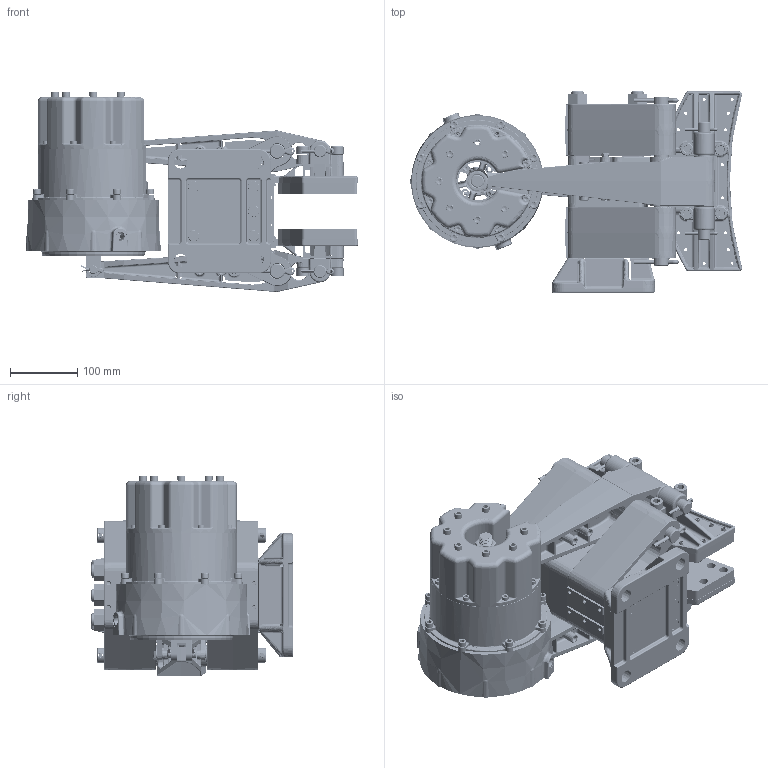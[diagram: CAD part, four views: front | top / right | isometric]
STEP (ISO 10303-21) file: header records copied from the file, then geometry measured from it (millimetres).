
FILE_DESCRIPTION (( 'STEP AP214' ), '1' );
FILE_NAME ('5024-SH-RH.STEP', '2016-07-29T17:30:08', ( 'User' ), ( 'Microsoft' ), 'SwSTEP 2.0', 'SolidWorks 2015', '' );
FILE_SCHEMA (( 'AUTOMOTIVE_DESIGN' ));
Length unit declared in the file: inch
Products named in the file (1): 5024-SH-RH
Bounding box: 492.1 x 298.45 x 296.75 mm (x, y, z)
Surface area: 1215319.5 mm2 (no closed solid volume)
Topology: 0 solids, 155 shells, 3568 faces, 10978 edges, 7183 vertices
Faces by surface type: cylinder 1213, plane 891, cone 559, bspline 480, torus 387, sphere 38
Entity records: 194926 total; most frequent: CARTESIAN_POINT 58554, DIRECTION 18541, ORIENTED_EDGE 17825, EDGE_CURVE 10836, AXIS2_PLACEMENT_3D 7341, VERTEX_POINT 7183, CIRCLE 4252, EDGE_LOOP 3977
